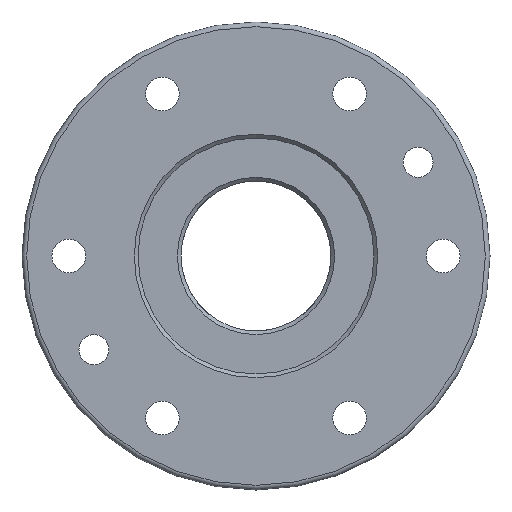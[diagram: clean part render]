
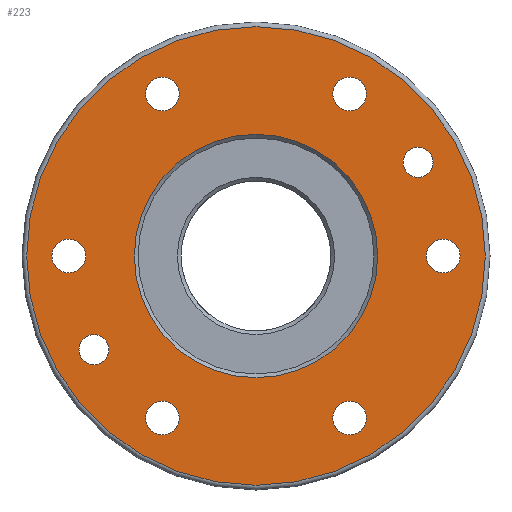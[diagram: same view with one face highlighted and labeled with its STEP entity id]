
A CAD part, front view. The second image highlights one B-rep face of the part: STEP entity #223.
In plain terms, the highlighted planar face has unit normal (0, -1, 0).
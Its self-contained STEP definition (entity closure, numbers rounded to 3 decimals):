
#73=CARTESIAN_POINT('',(-61.25,0.,0.0));
#74=VERTEX_POINT('',#73);
#75=CARTESIAN_POINT('',(0.,0.,0.0));
#76=DIRECTION('',(0.0,1.0,0.0));
#77=DIRECTION('',(1.0,0.0,0.0));
#78=AXIS2_PLACEMENT_3D('',#75,#76,#77);
#79=CIRCLE('',#78,61.25);
#80=EDGE_CURVE('',#74,#74,#79,.T.);
#116=CARTESIAN_POINT('',(-47.0,0.,0.0));
#117=DIRECTION('',(0.0,-1.0,0.0));
#118=DIRECTION('',(0.0,0.0,-1.0));
#119=AXIS2_PLACEMENT_3D('',#116,#117,#118);
#120=PLANE('',#119);
#121=ORIENTED_EDGE('',*,*,#80,.F.);
#122=EDGE_LOOP('',(#121));
#123=FACE_OUTER_BOUND('',#122,.T.);
#124=CARTESIAN_POINT('',(-32.5,0.,0.));
#125=VERTEX_POINT('',#124);
#126=CARTESIAN_POINT('',(0.,0.,0.0));
#127=DIRECTION('',(0.0,-1.0,0.0));
#128=DIRECTION('',(1.0,0.0,0.0));
#129=AXIS2_PLACEMENT_3D('',#126,#127,#128);
#130=CIRCLE('',#129,32.5);
#131=EDGE_CURVE('',#125,#125,#130,.T.);
#132=ORIENTED_EDGE('',*,*,#131,.F.);
#133=EDGE_LOOP('',(#132));
#134=FACE_BOUND('',#133,.T.);
#135=CARTESIAN_POINT('',(45.5,0.,0.));
#136=VERTEX_POINT('',#135);
#137=CARTESIAN_POINT('',(50.,0.,0.0));
#138=DIRECTION('',(0.0,1.0,0.0));
#139=DIRECTION('',(1.0,0.0,0.0));
#140=AXIS2_PLACEMENT_3D('',#137,#138,#139);
#141=CIRCLE('',#140,4.5);
#142=EDGE_CURVE('',#136,#136,#141,.T.);
#143=ORIENTED_EDGE('',*,*,#142,.T.);
#144=EDGE_LOOP('',(#143));
#145=FACE_BOUND('',#144,.T.);
#146=CARTESIAN_POINT('',(20.5,0.,-43.301));
#147=VERTEX_POINT('',#146);
#148=CARTESIAN_POINT('',(25.,0.,-43.301));
#149=DIRECTION('',(0.0,1.0,0.0));
#150=DIRECTION('',(1.0,0.0,0.0));
#151=AXIS2_PLACEMENT_3D('',#148,#149,#150);
#152=CIRCLE('',#151,4.5);
#153=EDGE_CURVE('',#147,#147,#152,.T.);
#154=ORIENTED_EDGE('',*,*,#153,.T.);
#155=EDGE_LOOP('',(#154));
#156=FACE_BOUND('',#155,.T.);
#157=CARTESIAN_POINT('',(-29.5,0.,-43.301));
#158=VERTEX_POINT('',#157);
#159=CARTESIAN_POINT('',(-25.,0.0,-43.301));
#160=DIRECTION('',(0.0,1.0,0.0));
#161=DIRECTION('',(1.0,0.0,0.0));
#162=AXIS2_PLACEMENT_3D('',#159,#160,#161);
#163=CIRCLE('',#162,4.5);
#164=EDGE_CURVE('',#158,#158,#163,.T.);
#165=ORIENTED_EDGE('',*,*,#164,.T.);
#166=EDGE_LOOP('',(#165));
#167=FACE_BOUND('',#166,.T.);
#168=CARTESIAN_POINT('',(-54.5,0.,0.));
#169=VERTEX_POINT('',#168);
#170=CARTESIAN_POINT('',(-50.,0.0,0.));
#171=DIRECTION('',(0.0,1.0,0.0));
#172=DIRECTION('',(1.0,0.0,0.0));
#173=AXIS2_PLACEMENT_3D('',#170,#171,#172);
#174=CIRCLE('',#173,4.5);
#175=EDGE_CURVE('',#169,#169,#174,.T.);
#176=ORIENTED_EDGE('',*,*,#175,.T.);
#177=EDGE_LOOP('',(#176));
#178=FACE_BOUND('',#177,.T.);
#179=CARTESIAN_POINT('',(-29.5,0.,43.301));
#180=VERTEX_POINT('',#179);
#181=CARTESIAN_POINT('',(-25.,0.0,43.301));
#182=DIRECTION('',(0.0,1.0,0.0));
#183=DIRECTION('',(1.0,0.0,0.0));
#184=AXIS2_PLACEMENT_3D('',#181,#182,#183);
#185=CIRCLE('',#184,4.5);
#186=EDGE_CURVE('',#180,#180,#185,.T.);
#187=ORIENTED_EDGE('',*,*,#186,.T.);
#188=EDGE_LOOP('',(#187));
#189=FACE_BOUND('',#188,.T.);
#190=CARTESIAN_POINT('',(20.5,0.,43.301));
#191=VERTEX_POINT('',#190);
#192=CARTESIAN_POINT('',(25.,0.,43.301));
#193=DIRECTION('',(0.0,1.0,0.0));
#194=DIRECTION('',(1.0,0.0,0.0));
#195=AXIS2_PLACEMENT_3D('',#192,#193,#194);
#196=CIRCLE('',#195,4.5);
#197=EDGE_CURVE('',#191,#191,#196,.T.);
#198=ORIENTED_EDGE('',*,*,#197,.T.);
#199=EDGE_LOOP('',(#198));
#200=FACE_BOUND('',#199,.T.);
#201=CARTESIAN_POINT('',(39.301,0.,25.));
#202=VERTEX_POINT('',#201);
#203=CARTESIAN_POINT('',(43.301,0.,25.));
#204=DIRECTION('',(0.0,1.0,0.0));
#205=DIRECTION('',(1.0,0.0,0.0));
#206=AXIS2_PLACEMENT_3D('',#203,#204,#205);
#207=CIRCLE('',#206,4.0);
#208=EDGE_CURVE('',#202,#202,#207,.T.);
#209=ORIENTED_EDGE('',*,*,#208,.T.);
#210=EDGE_LOOP('',(#209));
#211=FACE_BOUND('',#210,.T.);
#212=CARTESIAN_POINT('',(-47.301,0.,-25.0));
#213=VERTEX_POINT('',#212);
#214=CARTESIAN_POINT('',(-43.301,0.0,-25.0));
#215=DIRECTION('',(0.0,1.0,0.0));
#216=DIRECTION('',(1.0,0.0,0.0));
#217=AXIS2_PLACEMENT_3D('',#214,#215,#216);
#218=CIRCLE('',#217,4.0);
#219=EDGE_CURVE('',#213,#213,#218,.T.);
#220=ORIENTED_EDGE('',*,*,#219,.T.);
#221=EDGE_LOOP('',(#220));
#222=FACE_BOUND('',#221,.T.);
#223=ADVANCED_FACE('',(#123,#134,#145,#156,#167,#178,#189,#200,#211,#222),#120,.T.);
